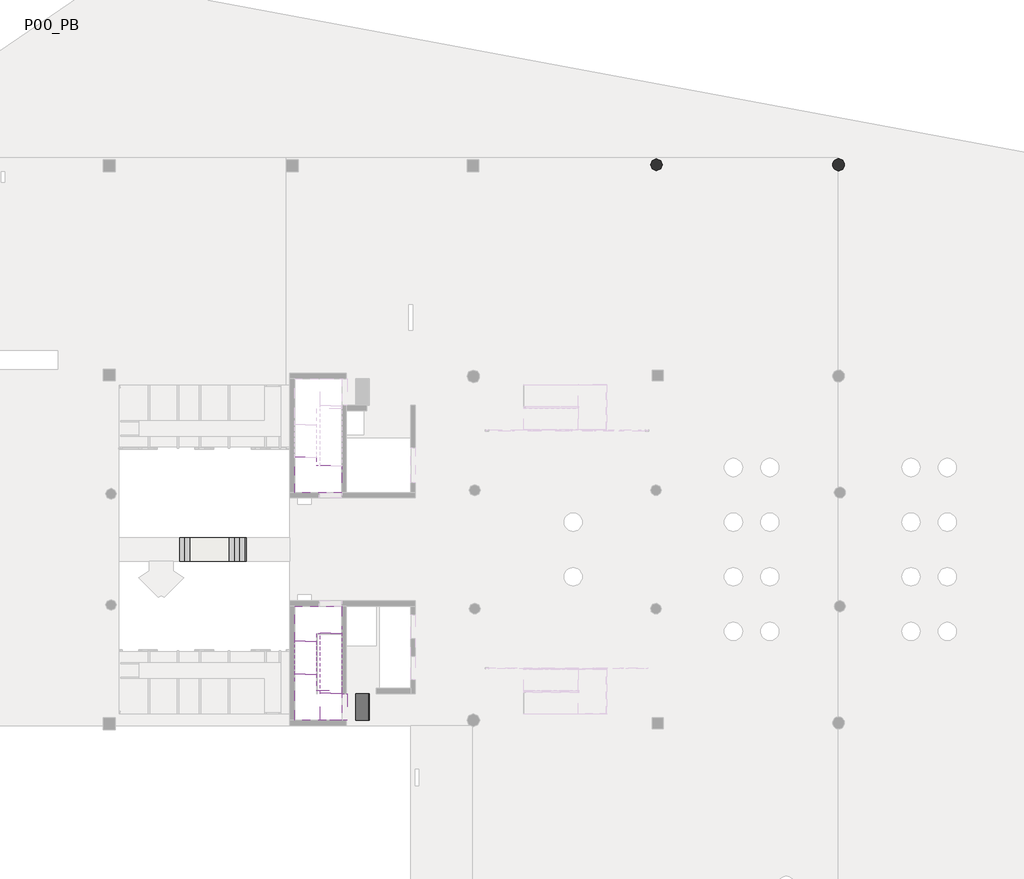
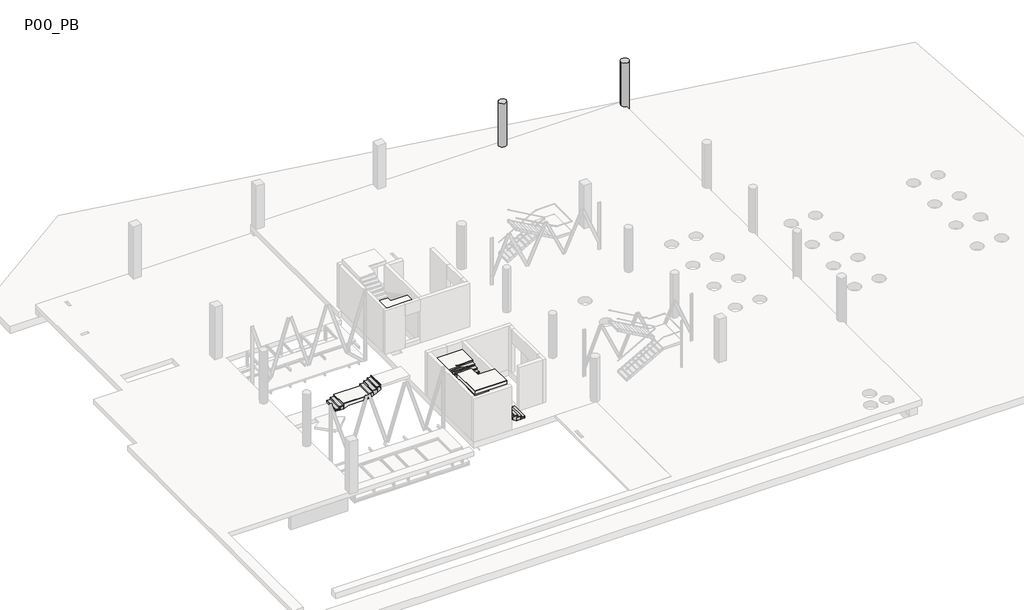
# One storey, part 6 of 7: 5 slabs, 5 stair flights, 2 columns.
"""IFC4 building model written with IfcOpenShell, lengths in millimetres."""

import ifcopenshell
import ifcopenshell.guid

model = None  # the IFC model being written
_history = None  # IfcOwnerHistory: only IFC2X3 demands one
_inside = {}  # id of a spatial element -> (the spatial element, [elements in it])
_under = {}  # id of a project, library or spatial element -> (it, [spatial elements below it])
_declared = {}  # id of a project -> (the project, [libraries it declares])
_typed = {}  # id of a type object -> (the type object, [elements of that type])
_made_of = {}  # id of a material, layer set ... -> (it, [elements and type objects made of it])


def new_model(schema):
    """Start an empty IFC model of exactly this schema.

    Asked for "IFC4X3", IfcOpenShell would pick the latest addendum, in which some entities
    have other attributes; the version numbers below select the first issue.
    IFC2X3 requires an IfcOwnerHistory on every rooted entity: one is made here for all.
    """
    global model, _history
    if schema == "IFC4X3":
        model = ifcopenshell.file(schema_version=(4, 3, 0, 0))
    else:
        model = ifcopenshell.file(schema=schema)
    _inside.clear()
    _under.clear()
    _declared.clear()
    _typed.clear()
    _made_of.clear()
    _history = None
    if model.schema == "IFC2X3":
        org = make("IfcOrganization", Name="unknown")
        user = make(
            "IfcPersonAndOrganization",
            ThePerson=make("IfcPerson", FamilyName="unknown"),
            TheOrganization=org,
        )
        app = make(
            "IfcApplication",
            ApplicationDeveloper=org,
            Version="unknown",
            ApplicationFullName="unknown",
            ApplicationIdentifier="unknown",
        )
        _history = make(
            "IfcOwnerHistory",
            OwningUser=user,
            OwningApplication=app,
            ChangeAction="ADDED",
            CreationDate=0,
        )
    return model


def make(cls, **values):
    """One entity of the class cls with the attributes given. An attribute that is None is left unset."""
    return model.create_entity(
        cls, **{name: value for name, value in values.items() if value is not None}
    )


def rooted(cls, **values):
    """An entity with a GlobalId (a new one), such as an element, a storey or a relation."""
    return make(cls, GlobalId=ifcopenshell.guid.new(), OwnerHistory=_history, **values)


def si_unit(unit_type, name, prefix=None):
    """IfcSIUnit, for example si_unit("LENGTHUNIT", "METRE", prefix="MILLI")."""
    return make("IfcSIUnit", UnitType=unit_type, Prefix=prefix, Name=name)


def assignment(units):
    """IfcUnitAssignment: the units of a project."""
    return None if units is None else make("IfcUnitAssignment", Units=units)


def point(xyz):
    """IfcCartesianPoint."""
    return None if xyz is None else make("IfcCartesianPoint", Coordinates=xyz)


def direction(xyz):
    """IfcDirection."""
    return None if xyz is None else make("IfcDirection", DirectionRatios=xyz)


def frame(location, z_axis=None, x_axis=None):
    """IfcAxis2Placement3D, a coordinate frame: its origin and axes. An axis left out is left unset."""
    return make(
        "IfcAxis2Placement3D",
        Location=point(location),
        Axis=direction(z_axis),
        RefDirection=direction(x_axis),
    )


def frame_2d(location, x_axis=None):
    """IfcAxis2Placement2D, a coordinate frame in the plane: its origin and x axis."""
    return make(
        "IfcAxis2Placement2D", Location=point(location), RefDirection=direction(x_axis)
    )


def origin():
    """The frame at (0, 0, 0) with its axes left unset."""
    return frame((0.0, 0.0, 0.0))


def place(relative_to, where):
    """IfcLocalPlacement: puts the frame where relative to a parent placement (None: the world)."""
    return make(
        "IfcLocalPlacement", PlacementRelTo=relative_to, RelativePlacement=where
    )


def context(
    kind, dimensions, precision=None, world=None, true_north=None, identifier=None
):
    """IfcGeometricRepresentationContext, for example the 3D "Model" context."""
    return make(
        "IfcGeometricRepresentationContext",
        ContextIdentifier=identifier,
        ContextType=kind,
        CoordinateSpaceDimension=dimensions,
        Precision=precision,
        WorldCoordinateSystem=world,
        TrueNorth=true_north,
    )


def project(units=None, contexts=None):
    """IfcProject with its units and contexts."""
    return rooted(
        "IfcProject",
        Name="project",
        RepresentationContexts=contexts,
        UnitsInContext=assignment(units),
    )


def spatial(cls, under=None, at=None, **own):
    """A site, building, storey or space (cls), placed at a placement, below another one or the project."""
    s = rooted(cls, ObjectPlacement=at, **own)
    if under is not None:
        _under.setdefault(under.id(), (under, []))[1].append(s)
    return s


def polyline(points):
    """IfcPolyline through the points."""
    return make("IfcPolyline", Points=[point(p) for p in points])


def circle_curve(where, radius):
    """IfcCircle in the frame where."""
    return make("IfcCircle", Position=where, Radius=radius)


def trimmed(basis, trim1, trim2, sense, master):
    """IfcTrimmedCurve: the piece of a basis curve between two trims."""
    return make(
        "IfcTrimmedCurve",
        BasisCurve=basis,
        Trim1=trim1,
        Trim2=trim2,
        SenseAgreement=sense,
        MasterRepresentation=master,
    )


def segment(curve, same_sense, transition):
    """IfcCompositeCurveSegment."""
    return make(
        "IfcCompositeCurveSegment",
        Transition=transition,
        SameSense=same_sense,
        ParentCurve=curve,
    )


def composite_curve(segments, self_intersect=None):
    """IfcCompositeCurve: segments joined end to end."""
    return make("IfcCompositeCurve", Segments=segments, SelfIntersect=self_intersect)


def outline(outer, holes=None, kind="AREA"):
    """IfcArbitraryClosedProfileDef: a profile drawn as a closed curve; with holes, ...WithVoids."""
    if holes is None:
        return make("IfcArbitraryClosedProfileDef", ProfileType=kind, OuterCurve=outer)
    return make(
        "IfcArbitraryProfileDefWithVoids",
        ProfileType=kind,
        OuterCurve=outer,
        InnerCurves=holes,
    )


def extrude(swept, where, along, depth):
    """IfcExtrudedAreaSolid: the profile swept, set in the frame where, extruded along a direction by depth."""
    return make(
        "IfcExtrudedAreaSolid",
        SweptArea=swept,
        Position=where,
        ExtrudedDirection=direction(along),
        Depth=depth,
    )


def faces_of(points, faces, orient=None, outer=None):
    """IfcFace entities. A face is a list of loops; a loop is a list of indices into points, from 0.

    orient and outer hold one flag for each loop. By default every Orientation is true, the
    first loop of a face is its IfcFaceOuterBound and the others are IfcFaceBound.
    """
    made = []
    for i, loops in enumerate(faces):
        bounds = []
        for j, loop in enumerate(loops):
            is_outer = j == 0 if outer is None else outer[i][j]
            bounds.append(
                make(
                    "IfcFaceOuterBound" if is_outer else "IfcFaceBound",
                    Bound=make("IfcPolyLoop", Polygon=[points[k] for k in loop]),
                    Orientation=True if orient is None else orient[i][j],
                )
            )
        made.append(make("IfcFace", Bounds=bounds))
    return made


def faceted_brep(points, faces, orient=None, outer=None, voids=None):
    """IfcFacetedBrep: a solid bounded by flat faces; with voids (closed shells), ...WithVoids."""
    shared = [point(p) for p in points]
    hull = make("IfcClosedShell", CfsFaces=faces_of(shared, faces, orient, outer))
    if voids is None:
        return make("IfcFacetedBrep", Outer=hull)
    return make(
        "IfcFacetedBrepWithVoids",
        Outer=hull,
        Voids=[
            make(cls, CfsFaces=faces_of(shared, fs, o, b)) for cls, fs, o, b in voids
        ],
    )


def shape(context_of_items, identifier, shape_type, items):
    """IfcShapeRepresentation: the items that make up one representation, for example the "Body"."""
    return make(
        "IfcShapeRepresentation",
        ContextOfItems=context_of_items,
        RepresentationIdentifier=identifier,
        RepresentationType=shape_type,
        Items=items,
    )


def made_of(thing, what):
    """Note that an element or type object is made of a material, layer set ...; save() writes the relation."""
    if what is not None:
        _made_of.setdefault(what.id(), (what, []))[1].append(thing)
    return thing


def element(
    cls,
    number,
    at=None,
    inside=None,
    cuts=None,
    type_object=None,
    material=None,
    context=None,
    identifier="Body",
    shape_type=None,
    held_by="IfcProductDefinitionShape",
    body=None,
    shapes=None,
    **own,
):
    """One element of the class cls, such as IfcWall. Its Tag is "e" and its number.

    at: its placement. inside: the storey or other place that contains it. cuts: it is an
    opening in that element (IfcRelVoidsElement). A single representation is given by context,
    identifier, shape_type and body (its items); several are given by shapes. held_by: the class
    of the entity that holds the representations. save() writes the other relations.
    """
    e = rooted(cls, Tag="e%d" % number, ObjectPlacement=at, **own)
    if body is not None:
        shapes = [shape(context, identifier, shape_type, body)]
    if shapes is not None:
        e.Representation = make(held_by, Representations=shapes)
    if inside is not None:
        _inside.setdefault(inside.id(), (inside, []))[1].append(e)
    if cuts is not None:
        rooted(
            "IfcRelVoidsElement", RelatingBuildingElement=cuts, RelatedOpeningElement=e
        )
    if type_object is not None:
        _typed.setdefault(type_object.id(), (type_object, []))[1].append(e)
    return made_of(e, material)


def aggregate(whole, parts):
    """IfcRelAggregates: a whole, such as a stair, and the parts it consists of."""
    return rooted("IfcRelAggregates", RelatingObject=whole, RelatedObjects=parts)


def save(model, path):
    """Write the relations noted so far, then the file.

    IfcRelAggregates (storeys below a building ...), IfcRelContainedInSpatialStructure (elements
    in a storey), IfcRelDefinesByType, IfcRelAssociatesMaterial and IfcRelDeclares: one each for
    every whole, place, type object, material and project.
    """
    for whole, parts in _under.values():
        aggregate(whole, parts)
    for where, things in _inside.values():
        rooted(
            "IfcRelContainedInSpatialStructure",
            RelatedElements=things,
            RelatingStructure=where,
        )
    for kind, things in _typed.values():
        rooted("IfcRelDefinesByType", RelatedObjects=things, RelatingType=kind)
    for what, things in _made_of.values():
        rooted("IfcRelAssociatesMaterial", RelatedObjects=things, RelatingMaterial=what)
    for by, libraries in _declared.values():
        rooted("IfcRelDeclares", RelatingContext=by, RelatedDefinitions=libraries)
    model.write(path)


def plane_surface(at):
    """IfcPlane: the flat surface through the origin of the frame at, square to its z axis."""
    return make("IfcPlane", Position=at)


def cylinder_surface(at, radius):
    """IfcCylindricalSurface: all points at the distance radius from the z axis of the frame at."""
    return make("IfcCylindricalSurface", Position=at, Radius=radius)


def advanced_brep(points, edges, surfaces, faces):
    """IfcAdvancedBrep: a solid bounded by faces that lie on surfaces and meet in shared edges.

    An edge is (start, end): straight between two places in points (the first is 0);
    or (start, end, curve); or (start, end, curve, False) where it runs against its curve.
    A face is (place in surfaces, loops), or (place, loops, False) where it looks against
    its surface's normal. A loop lists edges by number (the first is 1), with a minus sign
    where the edge is run from its end to its start. The first loop is the outer one.
    """
    corners = [point(p) for p in points]
    vertices = [make("IfcVertexPoint", VertexGeometry=c) for c in corners]
    made = []
    for start, end, *more in edges:
        made.append(
            make(
                "IfcEdgeCurve",
                EdgeStart=vertices[start],
                EdgeEnd=vertices[end],
                EdgeGeometry=more[0] if more else make("IfcPolyline", Points=[corners[start], corners[end]]),
                SameSense=more[1] if len(more) > 1 else True,
            )
        )
    hull = []
    for where, loops, *sense in faces:
        bounds = []
        for j, loop in enumerate(loops):
            ring = [make("IfcOrientedEdge", EdgeElement=made[abs(k) - 1], Orientation=k > 0) for k in loop]
            bounds.append(
                make(
                    "IfcFaceOuterBound" if j == 0 else "IfcFaceBound",
                    Bound=make("IfcEdgeLoop", EdgeList=ring),
                    Orientation=True,
                )
            )
        hull.append(make("IfcAdvancedFace", Bounds=bounds, FaceSurface=surfaces[where], SameSense=sense[0] if sense else True))
    return make("IfcAdvancedBrep", Outer=make("IfcClosedShell", CfsFaces=hull))


model = new_model("IFC4")

# Units and contexts
model_context = context("Model", 3, world=origin())
ifc_project = project(units=[si_unit("LENGTHUNIT", "METRE", prefix="MILLI")], contexts=[model_context])

# Site, building, storey
site = spatial("IfcSite", under=ifc_project)
building = spatial("IfcBuilding", under=site)
storey = spatial("IfcBuildingStorey", under=building, Name="P00_PB", Elevation=6330.0)

# Columns
placement = place(None, origin())
element("IfcColumn", 1, ObjectType="Hormigón-Redondo-Pilar : Pilo_Rodo-Formigo-650", at=placement, inside=storey, context=model_context, shape_type="SweptSolid", body=[
    extrude(outline(composite_curve([segment(trimmed(circle_curve(frame_2d((6484.6816847, 25614.4137814)), 325.0), [point((6809.6816847, 25614.4137814))], [point((6159.6816847, 25614.4137814))], False, "CARTESIAN"), True, "CONTINUOUS"), segment(trimmed(circle_curve(frame_2d((6484.6816847, 25614.4137814)), 325.0), [point((6159.6816847, 25614.4137814))], [point((6809.6816847, 25614.4137814))], False, "CARTESIAN"), True, "CONTINUOUS")], self_intersect=False)), frame((0.0, 0.0, 7100.0), z_axis=(0.0, 0.0, 1.0), x_axis=(1.0, 0.0, 0.0)), (0.0, 0.0, 1.0), 3760.0),
])
element("IfcColumn", 2, ObjectType="Hormigón-Redondo-Pilar : Pilo_Rodo-Formigo-650", at=placement, inside=storey, context=model_context, shape_type="AdvancedBrep", body=[
    advanced_brep(
    [(16434.2178625, 25293.2133373, 5480.0), (16434.2143846, 25589.9950291, 5480.0), (16434.2103345, 25935.6130606, 5480.0), (16808.7686026, 25614.4137796, 5480.0), (16808.7686026, 25614.4137796, 10860.0), (16158.7686026, 25614.4137796, 10860.0), (16158.7686026, 25614.4137796, 6600.0), (16434.2178625, 25293.2133373, 6600.0), (16434.2103345, 25935.6130606, 6600.0), (16434.2143846, 25589.9950291, 6600.0)],
    [
        (0, 1),
        (1, 2),
        (2, 3, circle_curve(frame((16483.7686026, 25614.4137796, 5480.0), z_axis=(0.0, 0.0, -1.0), x_axis=(-1.0, 0.0, 0.0)), 325.0)),
        (3, 0, circle_curve(frame((16483.7686026, 25614.4137796, 5480.0), z_axis=(0.0, 0.0, -1.0), x_axis=(-1.0, 0.0, 0.0)), 325.0)),
        (4, 5, circle_curve(frame((16483.7686026, 25614.4137796, 10860.0), z_axis=(0.0, 0.0, -1.0), x_axis=(-1.0, 0.0, 0.0)), 325.0)),
        (5, 6),
        (6, 7, circle_curve(frame((16483.7686026, 25614.4137796, 6600.0), z_axis=(0.0, 0.0, 1.0), x_axis=(-1.0, 0.0, 0.0)), 325.0)),
        (7, 0),
        (3, 4),
        (2, 8),
        (8, 6, circle_curve(frame((16483.7686026, 25614.4137796, 6600.0), z_axis=(0.0, 0.0, 1.0), x_axis=(-1.0, 0.0, 0.0)), 325.0)),
        (5, 4, circle_curve(frame((16483.7686026, 25614.4137796, 10860.0), z_axis=(0.0, 0.0, -1.0), x_axis=(-1.0, 0.0, 0.0)), 325.0)),
        (8, 9),
        (9, 7),
    ],
    [
        plane_surface(frame((16158.7686026, 25614.4137796, 5480.0), z_axis=(0.0, 0.0, -1.0), x_axis=(0.0, 1.0, 0.0))),
        cylinder_surface(frame((16483.7686026, 25614.4137796, 5480.0), z_axis=(0.0, 0.0, 1.0), x_axis=(-1.0, 0.0, 0.0)), 325.0),
        plane_surface(frame((16158.7686026, 25614.4137796, 10860.0), z_axis=(0.0, 0.0, 1.0), x_axis=(0.0, -1.0, 0.0))),
        plane_surface(frame((-13840.4585477, 25989.9950291, 6600.0), z_axis=(0.0, 0.0, -1.0), x_axis=(0.0, -1.0, 0.0))),
        plane_surface(frame((16434.5509715, -3132.6075252, 5480.0), z_axis=(-0.999999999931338, -1.1718535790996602e-05, 0.0), x_axis=(-1.1718535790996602e-05, 0.999999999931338, 0.0))),
    ],
    [
        (0, [[1, 2, 3, 4]]),
        (1, [[5, 6, 7, 8, -4, 9]]),
        (1, [[-9, -3, 10, 11, -6, 12]]),
        (2, [[-5, -12]]),
        (3, [[-11, 13, 14, -7]]),
        (4, [[-14, -13, -10, -2, -1, -8]]),
    ],
),
])

# Slabs
element("IfcSlab", 3, ObjectType="250mm_Thickness", at=placement, inside=storey, context=model_context, shape_type="SolidModel", body=[
    faceted_brep([(-10790.2146087, 9064.8934136, 10116.25), (-11990.2146087, 9064.8934136, 10116.25), (-11990.2146087, 9114.8934136, 10116.25), (-12190.3216429, 9114.8934136, 10116.25), (-12190.3216429, 9514.8960673, 10116.25), (-12190.3216429, 9564.8960673, 10116.25), (-13390.3216429, 9564.8960673, 10116.25), (-13390.3216429, 9514.8960673, 10116.25), (-13390.3216429, 7614.8960687, 10116.25), (-10790.2146087, 7614.8960687, 10116.25), (-10790.2146087, 8703.6910485, 10116.25), (-10790.2146087, 9064.8934136, 9960.0), (-10790.2146087, 9064.8934136, 9678.1237682), (-11990.2146087, 9064.8934136, 9678.1237682), (-11990.2146087, 9064.8934136, 9866.25), (-11990.2146087, 9064.8934136, 9960.0), (-11990.2146087, 9114.8934136, 9866.25), (-12190.3216429, 9114.8934136, 9866.25), (-12190.3216429, 9514.8960673, 9866.25), (-12190.3216429, 9564.8960673, 9866.25), (-13390.3216429, 9564.8960673, 9866.25), (-13390.3216429, 9514.8960673, 9866.25), (-13390.3216429, 7614.8960687, 9866.25), (-10790.2146087, 7614.8960687, 9866.25), (-10790.2146087, 8703.6910485, 9866.25), (-11990.2146087, 8703.6910485, 9866.25)], [[[0, 1, 2, 3, 4, 5, 6, 7, 8, 9, 10]], [[1, 0, 11, 12, 13, 14, 15]], [[2, 1, 15, 14, 16]], [[3, 2, 16, 17]], [[4, 3, 17, 18]], [[5, 4, 18, 19]], [[6, 5, 19, 20]], [[7, 6, 20, 21]], [[8, 7, 21, 22]], [[9, 8, 22, 23]], [[12, 11, 0, 10, 9, 23, 24]], [[25, 24, 23, 22, 21, 20, 19, 18, 17, 16, 14]], [[24, 25, 13, 12]], [[25, 14, 13]]]),
    extrude(outline(polyline([(-10790.2146087, 9114.8934136), (-10790.2146087, 7614.8960687), (-13390.3216429, 7614.8960687), (-13390.3216429, 9514.8960673), (-12190.3216429, 9514.8960673), (-12190.3216429, 9114.8934136), (-11990.2146087, 9114.8934136), (-10790.2146087, 9114.8934136)])), frame((0.0, 0.0, 10116.25), z_axis=(0.0, 0.0, 1.0), x_axis=(1.0, 0.0, 0.0)), (0.0, 0.0, 1.0), 50.0),
])
element("IfcSlab", 4, ObjectType="250mm_Thickness", at=placement, inside=storey, context=model_context, shape_type="SolidModel", body=[
    faceted_brep([(-10540.7914923, -4885.1039323, 8241.25), (-10540.7914923, -3435.1012772, 8241.25), (-10790.2146087, -3435.1012772, 8241.25), (-10790.2146087, -3385.1012772, 8241.25), (-11990.2146087, -3385.1012772, 8241.25), (-11990.2146087, -3435.1012772, 8241.25), (-11990.2146087, -4885.1039323, 8241.25), (-10901.9938574, -4885.1039323, 8241.25), (-10540.7914923, -4885.1039323, 8085.0), (-10540.7914923, -4885.1039323, 7803.1237682), (-10540.7914923, -3435.1012772, 7803.1237682), (-10540.7914923, -3435.1012772, 8085.0), (-11990.2146087, -4885.1039323, 7991.25), (-10901.9938574, -4885.1039323, 7991.25), (-11990.2146087, -3435.1012772, 7991.25), (-10790.2146087, -3385.1012772, 7991.25), (-11990.2146087, -3385.1012772, 7991.25), (-10901.9938574, -3435.1012772, 7991.25), (-10790.2146087, -3435.1012772, 7991.25)], [[[0, 1, 2, 3, 4, 5, 6, 7]], [[1, 0, 8, 9, 10, 11]], [[9, 8, 0, 7, 6, 12, 13]], [[6, 5, 14, 12]], [[4, 3, 15, 16]], [[2, 1, 11, 10, 17, 18]], [[17, 13, 12, 14, 16, 15, 18]], [[13, 17, 10, 9]], [[3, 2, 18, 15]], [[5, 4, 16, 14]]]),
    extrude(outline(polyline([(-10490.7914923, -4885.1039323), (-11990.2146087, -4885.1039323), (-11990.2146087, -3435.1012772), (-10790.2146087, -3435.1012772), (-10490.7914923, -3435.1012772), (-10490.7914923, -4885.1039323)])), frame((0.0, 0.0, 8241.25), z_axis=(0.0, 0.0, 1.0), x_axis=(1.0, 0.0, 0.0)), (0.0, 0.0, 1.0), 50.0),
])
element("IfcSlab", 5, ObjectType="250mm_Thickness", at=placement, inside=storey, context=model_context, shape_type="SolidModel", body=[
    faceted_brep([(-11990.2146087, -135.1012772, 10116.25), (-11990.2146087, -85.1012772, 10116.25), (-10790.2146087, -85.1012772, 10116.25), (-10790.2146087, 276.101088, 10116.25), (-10790.2146087, 1364.8960678, 10116.25), (-13390.3216429, 1364.8960678, 10116.25), (-13390.3216429, -535.1039308, 10116.25), (-13390.3216429, -585.1039308, 10116.25), (-12190.3216429, -585.1039308, 10116.25), (-12190.3216429, -535.1039308, 10116.25), (-12190.3216429, -135.1012772, 10116.25), (-11990.2146087, -85.1012772, 9960.0), (-11990.2146087, -85.1012772, 9866.25), (-11990.2146087, -85.1012772, 9678.1237682), (-10790.2146087, -85.1012772, 9678.1237682), (-10790.2146087, -85.1012772, 9960.0), (-12190.3216429, -135.1012772, 9866.25), (-11990.2146087, -135.1012772, 9866.25), (-12190.3216429, -535.1039308, 9866.25), (-13390.3216429, -585.1039308, 9866.25), (-12190.3216429, -585.1039308, 9866.25), (-13390.3216429, 1364.8960678, 9866.25), (-13390.3216429, -535.1039308, 9866.25), (-10790.2146087, 1364.8960678, 9866.25), (-10790.2146087, 276.101088, 9866.25), (-11990.2146087, 276.101088, 9866.25)], [[[0, 1, 2, 3, 4, 5, 6, 7, 8, 9, 10]], [[2, 1, 11, 12, 13, 14, 15]], [[0, 10, 16, 17]], [[10, 9, 18, 16]], [[8, 7, 19, 20]], [[6, 5, 21, 22]], [[5, 4, 23, 21]], [[2, 15, 14, 24, 23, 4, 3]], [[24, 25, 12, 17, 16, 18, 20, 19, 22, 21, 23]], [[25, 24, 14, 13]], [[12, 25, 13]], [[1, 0, 17, 12, 11]], [[7, 6, 22, 19]], [[9, 8, 20, 18]]]),
    extrude(outline(polyline([(-11990.2146087, -135.1012772), (-12190.3216429, -135.1012772), (-12190.3216429, -535.1039308), (-13390.3216429, -535.1039308), (-13390.3216429, 1364.8960678), (-10790.2146087, 1364.8960678), (-10790.2146087, -135.1012772), (-11990.2146087, -135.1012772)])), frame((0.0, 0.0, 10116.25), z_axis=(0.0, 0.0, 1.0), x_axis=(1.0, 0.0, 0.0)), (0.0, 0.0, 1.0), 50.0),
])
element("IfcSlab", 6, ObjectType="250mm_Thickness", at=placement, inside=storey, context=model_context, shape_type="SolidModel", body=[
    faceted_brep([(-12190.3216429, -2385.1039308, 11210.0), (-13390.3216429, -2385.1039308, 11210.0), (-13390.3216429, -2746.3062959, 11210.0), (-13390.3216429, -4885.1039323, 11210.0), (-10790.2146087, -4885.1039323, 11210.0), (-10790.2146087, -3235.1011462, 11210.0), (-12190.3216429, -3235.1011462, 11210.0), (-12190.3216429, -2746.3062959, 11210.0), (-12190.3216429, -2385.1039308, 10771.8737682), (-12190.3216429, -2385.1039308, 11053.75), (-12190.3216429, -3235.1011462, 10960.0), (-12190.3216429, -2746.3062959, 10960.0), (-10790.2146087, -3235.1011462, 10960.0), (-10790.2146087, -4885.1039323, 10960.0), (-13390.3216429, -4885.1039323, 10960.0), (-13390.3216429, -2385.1039308, 11053.75), (-13390.3216429, -2385.1039308, 10771.8737682), (-13390.3216429, -2746.3062959, 10960.0)], [[[0, 1, 2, 3, 4, 5, 6, 7]], [[8, 9, 0, 7, 6, 10, 11]], [[6, 5, 12, 10]], [[5, 4, 13, 12]], [[4, 3, 14, 13]], [[1, 15, 16, 17, 14, 3, 2]], [[17, 11, 10, 12, 13, 14]], [[1, 0, 9, 8, 16, 15]], [[11, 17, 16, 8]]]),
    extrude(outline(polyline([(-12190.3216429, -2335.1039308), (-12190.3216429, -3235.1011462), (-10790.2146087, -3235.1011462), (-10790.2146087, -4885.1039323), (-13390.3216429, -4885.1039323), (-13390.3216429, -2335.1039308), (-12190.3216429, -2335.1039308)])), frame((0.0, 0.0, 11210.0), z_axis=(0.0, 0.0, 1.0), x_axis=(1.0, 0.0, 0.0)), (0.0, 0.0, 1.0), 50.0),
])
element("IfcSlab", 7, ObjectType="250mm_Thickness", at=placement, inside=storey, context=model_context, shape_type="SolidModel", body=[
    faceted_brep([(-16983.8735458, 3839.896069, 6842.8571429), (-16933.8735458, 3839.896069, 6842.8571429), (-16933.8735458, 5139.896069, 6842.8571429), (-16983.8735458, 5139.896069, 6842.8571429), (-18693.3549721, 5139.896069, 6842.8571429), (-19053.8735458, 5139.896069, 6842.8571429), (-19053.8735458, 3839.896069, 6842.8571429), (-18693.3549721, 3839.896069, 6842.8571429), (-19053.8735458, 5139.896069, 6430.0), (-19053.8735458, 5139.896069, 6688.5714286), (-16983.8735458, 5139.896069, 6592.8571429), (-18693.3549721, 5139.896069, 6592.8571429), (-19010.0216388, 5139.896069, 6430.0), (-19053.8735458, 3839.896069, 6688.5714286), (-19053.8735458, 3839.896069, 6430.0), (-19010.0216388, 3839.896069, 6430.0), (-18693.3549721, 3839.896069, 6592.8571429), (-16983.8735458, 3839.896069, 6592.8571429), (-16933.8735458, 5139.896069, 6592.8571429), (-16933.8735458, 3839.896069, 6592.8571429)], [[[0, 1, 2, 3, 4, 5, 6, 7]], [[8, 9, 5, 4, 3, 10, 11, 12]], [[6, 13, 14, 15, 16, 17, 0, 7]], [[14, 8, 12, 15]], [[16, 11, 10, 18, 19, 17]], [[6, 5, 9, 8, 14, 13]], [[11, 16, 15, 12]], [[1, 0, 17, 19]], [[2, 1, 19, 18]], [[3, 2, 18, 10]]]),
    extrude(outline(polyline([(-16983.8735458, 3839.896069), (-19103.8735458, 3839.896069), (-19103.8735458, 5139.896069), (-16983.8735458, 5139.896069), (-16983.8735458, 3839.896069)])), frame((0.0, 0.0, 6842.8571429), z_axis=(0.0, 0.0, 1.0), x_axis=(1.0, 0.0, 0.0)), (0.0, 0.0, 1.0), 50.0),
])

# Stair flights
element("IfcStairFlight", 8, ObjectType="250mm Depth_Terrazo Marro", at=placement, inside=storey, context=model_context, shape_type="SolidModel", body=[
    faceted_brep([(-19353.8735458, 5139.896069, 6534.2857143), (-19653.8735458, 5139.896069, 6534.2857143), (-19653.8735458, 3839.896069, 6534.2857143), (-19353.8735458, 3839.896069, 6534.2857143), (-19353.8735458, 5139.896069, 6430.0), (-19653.8735458, 5139.896069, 6430.0), (-19653.8735458, 3839.896069, 6430.0), (-19353.8735458, 3839.896069, 6430.0), (-19353.8735458, 5139.896069, 6688.5714286), (-19353.8735458, 3839.896069, 6688.5714286), (-19103.8735458, 3839.896069, 6688.5714286), (-19053.8735458, 3839.896069, 6688.5714286), (-19053.8735458, 5139.896069, 6688.5714286), (-19103.8735458, 5139.896069, 6688.5714286), (-19053.8735458, 5139.896069, 6430.0), (-19103.8735458, 5139.896069, 6430.0), (-19103.8735458, 3839.896069, 6430.0), (-19053.8735458, 3839.896069, 6430.0)], [[[0, 1, 2, 3]], [[1, 0, 4, 5]], [[2, 1, 5, 6]], [[3, 2, 6, 7]], [[8, 9, 10, 11, 12, 13]], [[4, 0, 8, 13, 12, 14, 15]], [[0, 3, 9, 8]], [[3, 7, 16, 17, 11, 10, 9]], [[12, 11, 17, 14]], [[5, 4, 15, 14, 17, 16, 7, 6]]]),
    extrude(outline(polyline([(-19653.8735458, 3839.896069), (-19703.8735458, 3839.896069), (-19703.8735458, 5139.896069), (-19653.8735458, 5139.896069), (-19653.8735458, 3839.896069)])), frame((0.0, 0.0, 6430.0), z_axis=(0.0, 0.0, 1.0), x_axis=(1.0, 0.0, 0.0)), (0.0, 0.0, 1.0), 104.2857143),
    extrude(outline(polyline([(-19403.8735458, 5139.896069), (-19403.8735458, 3839.896069), (-19703.8735458, 3839.896069), (-19703.8735458, 5139.896069), (-19403.8735458, 5139.896069)])), frame((0.0, 0.0, 6534.2857143), z_axis=(0.0, 0.0, 1.0), x_axis=(1.0, 0.0, 0.0)), (0.0, 0.0, 1.0), 50.0),
    extrude(outline(polyline([(-19353.8735458, 3839.896069), (-19403.8735458, 3839.896069), (-19403.8735458, 5139.896069), (-19353.8735458, 5139.896069), (-19353.8735458, 3839.896069)])), frame((0.0, 0.0, 6534.2857143), z_axis=(0.0, 0.0, 1.0), x_axis=(1.0, 0.0, 0.0)), (0.0, 0.0, 1.0), 154.2857143),
    extrude(outline(polyline([(-19053.8735458, 3839.896069), (-19103.8735458, 3839.896069), (-19103.8735458, 5139.896069), (-19053.8735458, 5139.896069), (-19053.8735458, 3839.896069)])), frame((0.0, 0.0, 6688.5714286), z_axis=(0.0, 0.0, 1.0), x_axis=(1.0, 0.0, 0.0)), (0.0, 0.0, 1.0), 154.2857143),
    extrude(outline(polyline([(-19103.8735458, 5139.896069), (-19103.8735458, 3839.896069), (-19403.8735458, 3839.896069), (-19403.8735458, 5139.896069), (-19103.8735458, 5139.896069)])), frame((0.0, 0.0, 6688.5714286), z_axis=(0.0, 0.0, 1.0), x_axis=(1.0, 0.0, 0.0)), (0.0, 0.0, 1.0), 50.0),
])
element("IfcStairFlight", 9, ObjectType="250mm Depth_Terrazo Marro", at=placement, inside=storey, context=model_context, shape_type="SolidModel", body=[
    faceted_brep([(-16933.8735458, 5139.896069, 6997.1428571), (-16933.8735458, 3839.896069, 6997.1428571), (-16873.3549721, 3839.896069, 6997.1428571), (-16633.8735458, 3839.896069, 6997.1428571), (-16633.8735458, 5139.896069, 6997.1428571), (-16873.3549721, 5139.896069, 6997.1428571), (-16633.8735458, 5139.896069, 6716.0190192), (-16873.3549721, 5139.896069, 6592.8571429), (-16933.8735458, 5139.896069, 6592.8571429), (-16933.8735458, 5139.896069, 6842.8571429), (-16933.8735458, 3839.896069, 6592.8571429), (-16933.8735458, 3839.896069, 6842.8571429), (-16873.3549721, 3839.896069, 6592.8571429), (-16633.8735458, 3839.896069, 6716.0190192), (-16333.8735458, 5139.896069, 7151.4285714), (-16633.8735458, 5139.896069, 7151.4285714), (-16633.8735458, 3839.896069, 7151.4285714), (-16333.8735458, 3839.896069, 7151.4285714), (-16333.8735458, 5139.896069, 6870.3047335), (-16333.8735458, 3839.896069, 6870.3047335), (-16033.8735458, 5139.896069, 7305.7142857), (-16333.8735458, 5139.896069, 7305.7142857), (-16333.8735458, 3839.896069, 7305.7142857), (-16033.8735458, 3839.896069, 7305.7142857), (-16033.8735458, 5139.896069, 7024.5904478), (-16033.8735458, 3839.896069, 7024.5904478)], [[[0, 1, 2, 3, 4, 5]], [[4, 6, 7, 8, 9, 0, 5]], [[1, 0, 9, 8, 10, 11]], [[1, 11, 10, 12, 13, 3, 2]], [[14, 15, 16, 17]], [[15, 14, 18, 6, 4]], [[4, 3, 16, 15]], [[17, 16, 3, 13, 19]], [[20, 21, 22, 23]], [[21, 20, 24, 18, 14]], [[14, 17, 22, 21]], [[23, 22, 17, 19, 25]], [[20, 23, 25, 24]], [[12, 7, 6, 18, 24, 25, 19, 13]], [[7, 12, 10, 8]]]),
    extrude(outline(polyline([(-16933.8735458, 3839.896069), (-16983.8735458, 3839.896069), (-16983.8735458, 5139.896069), (-16933.8735458, 5139.896069), (-16933.8735458, 3839.896069)])), frame((0.0, 0.0, 6842.8571429), z_axis=(0.0, 0.0, 1.0), x_axis=(1.0, 0.0, 0.0)), (0.0, 0.0, 1.0), 154.2857143),
    extrude(outline(polyline([(-16683.8735458, 5139.896069), (-16683.8735458, 3839.896069), (-16983.8735458, 3839.896069), (-16983.8735458, 5139.896069), (-16683.8735458, 5139.896069)])), frame((0.0, 0.0, 6997.1428571), z_axis=(0.0, 0.0, 1.0), x_axis=(1.0, 0.0, 0.0)), (0.0, 0.0, 1.0), 50.0),
    extrude(outline(polyline([(-16633.8735458, 3839.896069), (-16683.8735458, 3839.896069), (-16683.8735458, 5139.896069), (-16633.8735458, 5139.896069), (-16633.8735458, 3839.896069)])), frame((0.0, 0.0, 6997.1428571), z_axis=(0.0, 0.0, 1.0), x_axis=(1.0, 0.0, 0.0)), (0.0, 0.0, 1.0), 154.2857143),
    extrude(outline(polyline([(-16383.8735458, 5139.896069), (-16383.8735458, 3839.896069), (-16683.8735458, 3839.896069), (-16683.8735458, 5139.896069), (-16383.8735458, 5139.896069)])), frame((0.0, 0.0, 7151.4285714), z_axis=(0.0, 0.0, 1.0), x_axis=(1.0, 0.0, 0.0)), (0.0, 0.0, 1.0), 50.0),
    extrude(outline(polyline([(-16333.8735458, 3839.896069), (-16383.8735458, 3839.896069), (-16383.8735458, 5139.896069), (-16333.8735458, 5139.896069), (-16333.8735458, 3839.896069)])), frame((0.0, 0.0, 7151.4285714), z_axis=(0.0, 0.0, 1.0), x_axis=(1.0, 0.0, 0.0)), (0.0, 0.0, 1.0), 154.2857143),
    extrude(outline(polyline([(-16033.8735458, 3839.896069), (-16083.8735458, 3839.896069), (-16083.8735458, 5139.896069), (-16033.8735458, 5139.896069), (-16033.8735458, 3839.896069)])), frame((0.0, 0.0, 7305.7142857), z_axis=(0.0, 0.0, 1.0), x_axis=(1.0, 0.0, 0.0)), (0.0, 0.0, 1.0), 154.2857143),
    extrude(outline(polyline([(-16083.8735458, 5139.896069), (-16083.8735458, 3839.896069), (-16383.8735458, 3839.896069), (-16383.8735458, 5139.896069), (-16083.8735458, 5139.896069)])), frame((0.0, 0.0, 7305.7142857), z_axis=(0.0, 0.0, 1.0), x_axis=(1.0, 0.0, 0.0)), (0.0, 0.0, 1.0), 50.0),
])
element("IfcStairFlight", 10, ObjectType="250mm Depth", at=placement, inside=storey, context=model_context, shape_type="SolidModel", body=[
    faceted_brep([(-9640.7914923, -4885.1039323, 7616.25), (-9340.7914923, -4885.1039323, 7616.25), (-9340.7914923, -3435.1012772, 7616.25), (-9640.7914923, -3435.1012772, 7616.25), (-9340.7914923, -3435.1012772, 7510.0), (-9640.7914923, -3435.1012772, 7510.0), (-9340.7914923, -4885.1039323, 7510.0), (-9640.7914923, -4885.1039323, 7510.0), (-9940.7914923, -4885.1039323, 7772.5), (-9640.7914923, -4885.1039323, 7772.5), (-9640.7914923, -3435.1012772, 7772.5), (-9940.7914923, -3435.1012772, 7772.5), (-9940.7914923, -3435.1012772, 7510.0), (-9940.7914923, -4885.1039323, 7510.0), (-10240.7914923, -4885.1039323, 7928.75), (-9940.7914923, -4885.1039323, 7928.75), (-9940.7914923, -3435.1012772, 7928.75), (-10240.7914923, -3435.1012772, 7928.75), (-9977.9938574, -3435.1012772, 7510.0), (-10240.7914923, -3435.1012772, 7646.8737682), (-10240.7914923, -4885.1039323, 7646.8737682), (-9977.9938574, -4885.1039323, 7510.0), (-10540.7914923, -4885.1039323, 8085.0), (-10240.7914923, -4885.1039323, 8085.0), (-10240.7914923, -3435.1012772, 8085.0), (-10540.7914923, -3435.1012772, 8085.0), (-10540.7914923, -3435.1012772, 7803.1237682), (-10540.7914923, -4885.1039323, 7803.1237682)], [[[0, 1, 2, 3]], [[3, 2, 4, 5]], [[2, 1, 6, 4]], [[1, 0, 7, 6]], [[8, 9, 10, 11]], [[3, 5, 12, 11, 10]], [[0, 3, 10, 9]], [[7, 0, 9, 8, 13]], [[14, 15, 16, 17]], [[11, 12, 18, 19, 17, 16]], [[8, 11, 16, 15]], [[13, 8, 15, 14, 20, 21]], [[22, 23, 24, 25]], [[25, 24, 17, 19, 26]], [[14, 17, 24, 23]], [[23, 22, 27, 20, 14]], [[22, 25, 26, 27]], [[6, 7, 13, 21, 18, 12, 5, 4]], [[18, 21, 20, 27, 26, 19]]]),
    extrude(outline(polyline([(-9340.7914923, -3435.1012772), (-9290.7914923, -3435.1012772), (-9290.7914923, -4885.1039323), (-9340.7914923, -4885.1039323), (-9340.7914923, -3435.1012772)])), frame((0.0, 0.0, 7510.0), z_axis=(0.0, 0.0, 1.0), x_axis=(1.0, 0.0, 0.0)), (0.0, 0.0, 1.0), 106.25),
    extrude(outline(polyline([(-9590.7914923, -4885.1039323), (-9590.7914923, -3435.1012772), (-9290.7914923, -3435.1012772), (-9290.7914923, -4885.1039323), (-9590.7914923, -4885.1039323)])), frame((0.0, 0.0, 7616.25), z_axis=(0.0, 0.0, 1.0), x_axis=(1.0, 0.0, 0.0)), (0.0, 0.0, 1.0), 50.0),
    extrude(outline(polyline([(-9640.7914923, -3435.1012772), (-9590.7914923, -3435.1012772), (-9590.7914923, -4885.1039323), (-9640.7914923, -4885.1039323), (-9640.7914923, -3435.1012772)])), frame((0.0, 0.0, 7616.25), z_axis=(0.0, 0.0, 1.0), x_axis=(1.0, 0.0, 0.0)), (0.0, 0.0, 1.0), 156.25),
    extrude(outline(polyline([(-9890.7914923, -4885.1039323), (-9890.7914923, -3435.1012772), (-9590.7914923, -3435.1012772), (-9590.7914923, -4885.1039323), (-9890.7914923, -4885.1039323)])), frame((0.0, 0.0, 7772.5), z_axis=(0.0, 0.0, 1.0), x_axis=(1.0, 0.0, 0.0)), (0.0, 0.0, 1.0), 50.0),
    extrude(outline(polyline([(-9940.7914923, -3435.1012772), (-9890.7914923, -3435.1012772), (-9890.7914923, -4885.1039323), (-9940.7914923, -4885.1039323), (-9940.7914923, -3435.1012772)])), frame((0.0, 0.0, 7772.5), z_axis=(0.0, 0.0, 1.0), x_axis=(1.0, 0.0, 0.0)), (0.0, 0.0, 1.0), 156.25),
    extrude(outline(polyline([(-10190.7914923, -4885.1039323), (-10190.7914923, -3435.1012772), (-9890.7914923, -3435.1012772), (-9890.7914923, -4885.1039323), (-10190.7914923, -4885.1039323)])), frame((0.0, 0.0, 7928.75), z_axis=(0.0, 0.0, 1.0), x_axis=(1.0, 0.0, 0.0)), (0.0, 0.0, 1.0), 50.0),
    extrude(outline(polyline([(-10240.7914923, -3435.1012772), (-10190.7914923, -3435.1012772), (-10190.7914923, -4885.1039323), (-10240.7914923, -4885.1039323), (-10240.7914923, -3435.1012772)])), frame((0.0, 0.0, 7928.75), z_axis=(0.0, 0.0, 1.0), x_axis=(1.0, 0.0, 0.0)), (0.0, 0.0, 1.0), 156.25),
    extrude(outline(polyline([(-10540.7914923, -3435.1012772), (-10490.7914923, -3435.1012772), (-10490.7914923, -4885.1039323), (-10540.7914923, -4885.1039323), (-10540.7914923, -3435.1012772)])), frame((0.0, 0.0, 8085.0), z_axis=(0.0, 0.0, 1.0), x_axis=(1.0, 0.0, 0.0)), (0.0, 0.0, 1.0), 156.25),
    extrude(outline(polyline([(-10490.7914923, -4885.1039323), (-10490.7914923, -3435.1012772), (-10190.7914923, -3435.1012772), (-10190.7914923, -4885.1039323), (-10490.7914923, -4885.1039323)])), frame((0.0, 0.0, 8085.0), z_axis=(0.0, 0.0, 1.0), x_axis=(1.0, 0.0, 0.0)), (0.0, 0.0, 1.0), 50.0),
])
element("IfcStairFlight", 11, ObjectType="250mm Depth", at=placement, inside=storey, context=model_context, shape_type="SolidModel", body=[
    faceted_brep([(-11990.2146087, -3385.1012772, 8397.5), (-10790.2146087, -3385.1012772, 8397.5), (-10790.2146087, -3323.898912, 8397.5), (-10790.2146087, -3085.1012772, 8397.5), (-11990.2146087, -3085.1012772, 8397.5), (-11990.2146087, -3323.898912, 8397.5), (-10790.2146087, -3385.1012772, 8241.25), (-10790.2146087, -3385.1012772, 7991.25), (-10790.2146087, -3323.898912, 7991.25), (-10790.2146087, -3085.1012772, 8115.6237682), (-11990.2146087, -3385.1012772, 8241.25), (-11990.2146087, -3385.1012772, 7991.25), (-11990.2146087, -3085.1012772, 8115.6237682), (-11990.2146087, -3323.898912, 7991.25), (-11990.2146087, -2785.1012772, 8553.75), (-11990.2146087, -3085.1012772, 8553.75), (-10790.2146087, -3085.1012772, 8553.75), (-10790.2146087, -2785.1012772, 8553.75), (-10790.2146087, -2785.1012772, 8271.8737682), (-11990.2146087, -2785.1012772, 8271.8737682), (-11990.2146087, -2485.1012772, 8710.0), (-11990.2146087, -2785.1012772, 8710.0), (-10790.2146087, -2785.1012772, 8710.0), (-10790.2146087, -2485.1012772, 8710.0), (-10790.2146087, -2485.1012772, 8428.1237682), (-11990.2146087, -2485.1012772, 8428.1237682), (-11990.2146087, -2185.1012772, 8866.25), (-11990.2146087, -2485.1012772, 8866.25), (-10790.2146087, -2485.1012772, 8866.25), (-10790.2146087, -2185.1012772, 8866.25), (-10790.2146087, -2185.1012772, 8584.3737682), (-11990.2146087, -2185.1012772, 8584.3737682), (-11990.2146087, -1885.1012772, 9022.5), (-11990.2146087, -2185.1012772, 9022.5), (-10790.2146087, -2185.1012772, 9022.5), (-10790.2146087, -1885.1012772, 9022.5), (-10790.2146087, -1885.1012772, 8740.6237682), (-11990.2146087, -1885.1012772, 8740.6237682), (-11990.2146087, -1585.1012772, 9178.75), (-11990.2146087, -1885.1012772, 9178.75), (-10790.2146087, -1885.1012772, 9178.75), (-10790.2146087, -1585.1012772, 9178.75), (-10790.2146087, -1585.1012772, 8896.8737682), (-11990.2146087, -1585.1012772, 8896.8737682), (-11990.2146087, -1285.1012772, 9335.0), (-11990.2146087, -1585.1012772, 9335.0), (-10790.2146087, -1585.1012772, 9335.0), (-10790.2146087, -1285.1012772, 9335.0), (-10790.2146087, -1285.1012772, 9053.1237682), (-11990.2146087, -1285.1012772, 9053.1237682), (-11990.2146087, -985.1012772, 9491.25), (-11990.2146087, -1285.1012772, 9491.25), (-10790.2146087, -1285.1012772, 9491.25), (-10790.2146087, -985.1012772, 9491.25), (-10790.2146087, -985.1012772, 9209.3737682), (-11990.2146087, -985.1012772, 9209.3737682), (-11990.2146087, -685.1012772, 9647.5), (-11990.2146087, -985.1012772, 9647.5), (-10790.2146087, -985.1012772, 9647.5), (-10790.2146087, -685.1012772, 9647.5), (-10790.2146087, -685.1012772, 9365.6237682), (-11990.2146087, -685.1012772, 9365.6237682), (-11990.2146087, -385.1012772, 9803.75), (-11990.2146087, -685.1012772, 9803.75), (-10790.2146087, -685.1012772, 9803.75), (-10790.2146087, -385.1012772, 9803.75), (-10790.2146087, -385.1012772, 9521.8737682), (-11990.2146087, -385.1012772, 9521.8737682), (-11990.2146087, -385.1012772, 9960.0), (-10790.2146087, -385.1012772, 9960.0), (-10790.2146087, -85.1012772, 9960.0), (-11990.2146087, -85.1012772, 9960.0), (-11990.2146087, -135.1012772, 9960.0), (-10790.2146087, -85.1012772, 9678.1237682), (-11990.2146087, -85.1012772, 9866.25), (-11990.2146087, -85.1012772, 9678.1237682)], [[[0, 1, 2, 3, 4, 5]], [[1, 6, 7, 8, 9, 3, 2]], [[1, 0, 10, 11, 7, 6]], [[4, 12, 13, 11, 10, 0, 5]], [[14, 15, 16, 17]], [[17, 16, 3, 9, 18]], [[16, 15, 4, 3]], [[15, 14, 19, 12, 4]], [[20, 21, 22, 23]], [[23, 22, 17, 18, 24]], [[22, 21, 14, 17]], [[21, 20, 25, 19, 14]], [[26, 27, 28, 29]], [[29, 28, 23, 24, 30]], [[28, 27, 20, 23]], [[27, 26, 31, 25, 20]], [[32, 33, 34, 35]], [[35, 34, 29, 30, 36]], [[34, 33, 26, 29]], [[33, 32, 37, 31, 26]], [[38, 39, 40, 41]], [[41, 40, 35, 36, 42]], [[40, 39, 32, 35]], [[39, 38, 43, 37, 32]], [[44, 45, 46, 47]], [[47, 46, 41, 42, 48]], [[46, 45, 38, 41]], [[45, 44, 49, 43, 38]], [[50, 51, 52, 53]], [[53, 52, 47, 48, 54]], [[52, 51, 44, 47]], [[51, 50, 55, 49, 44]], [[56, 57, 58, 59]], [[59, 58, 53, 54, 60]], [[58, 57, 50, 53]], [[57, 56, 61, 55, 50]], [[62, 63, 64, 65]], [[65, 64, 59, 60, 66]], [[64, 63, 56, 59]], [[63, 62, 67, 61, 56]], [[68, 69, 70, 71, 72]], [[70, 69, 65, 66, 73]], [[69, 68, 62, 65]], [[62, 68, 72, 71, 74, 75, 67]], [[71, 70, 73, 75, 74]], [[8, 13, 12, 19, 25, 31, 37, 43, 49, 55, 61, 67, 75, 73, 66, 60, 54, 48, 42, 36, 30, 24, 18, 9]], [[13, 8, 7, 11]]]),
    extrude(outline(polyline([(-10790.2146087, -3385.1012772), (-10790.2146087, -3435.1012772), (-11990.2146087, -3435.1012772), (-11990.2146087, -3385.1012772), (-10790.2146087, -3385.1012772)])), frame((0.0, 0.0, 8241.25), z_axis=(0.0, 0.0, 1.0), x_axis=(1.0, 0.0, 0.0)), (0.0, 0.0, 1.0), 156.25),
    extrude(outline(polyline([(-11990.2146087, -3135.1012772), (-10790.2146087, -3135.1012772), (-10790.2146087, -3435.1012772), (-11990.2146087, -3435.1012772), (-11990.2146087, -3135.1012772)])), frame((0.0, 0.0, 8397.5), z_axis=(0.0, 0.0, 1.0), x_axis=(1.0, 0.0, 0.0)), (0.0, 0.0, 1.0), 50.0),
    extrude(outline(polyline([(-10790.2146087, -3085.1012772), (-10790.2146087, -3135.1012772), (-11990.2146087, -3135.1012772), (-11990.2146087, -3085.1012772), (-10790.2146087, -3085.1012772)])), frame((0.0, 0.0, 8397.5), z_axis=(0.0, 0.0, 1.0), x_axis=(1.0, 0.0, 0.0)), (0.0, 0.0, 1.0), 156.25),
    extrude(outline(polyline([(-11990.2146087, -2835.1012772), (-10790.2146087, -2835.1012772), (-10790.2146087, -3135.1012772), (-11990.2146087, -3135.1012772), (-11990.2146087, -2835.1012772)])), frame((0.0, 0.0, 8553.75), z_axis=(0.0, 0.0, 1.0), x_axis=(1.0, 0.0, 0.0)), (0.0, 0.0, 1.0), 50.0),
    extrude(outline(polyline([(-10790.2146087, -2785.1012772), (-10790.2146087, -2835.1012772), (-11990.2146087, -2835.1012772), (-11990.2146087, -2785.1012772), (-10790.2146087, -2785.1012772)])), frame((0.0, 0.0, 8553.75), z_axis=(0.0, 0.0, 1.0), x_axis=(1.0, 0.0, 0.0)), (0.0, 0.0, 1.0), 156.25),
    extrude(outline(polyline([(-11990.2146087, -2535.1012772), (-10790.2146087, -2535.1012772), (-10790.2146087, -2835.1012772), (-11990.2146087, -2835.1012772), (-11990.2146087, -2535.1012772)])), frame((0.0, 0.0, 8710.0), z_axis=(0.0, 0.0, 1.0), x_axis=(1.0, 0.0, 0.0)), (0.0, 0.0, 1.0), 50.0),
    extrude(outline(polyline([(-10790.2146087, -2485.1012772), (-10790.2146087, -2535.1012772), (-11990.2146087, -2535.1012772), (-11990.2146087, -2485.1012772), (-10790.2146087, -2485.1012772)])), frame((0.0, 0.0, 8710.0), z_axis=(0.0, 0.0, 1.0), x_axis=(1.0, 0.0, 0.0)), (0.0, 0.0, 1.0), 156.25),
    extrude(outline(polyline([(-11990.2146087, -2235.1012772), (-10790.2146087, -2235.1012772), (-10790.2146087, -2535.1012772), (-11990.2146087, -2535.1012772), (-11990.2146087, -2235.1012772)])), frame((0.0, 0.0, 8866.25), z_axis=(0.0, 0.0, 1.0), x_axis=(1.0, 0.0, 0.0)), (0.0, 0.0, 1.0), 50.0),
    extrude(outline(polyline([(-10790.2146087, -2185.1012772), (-10790.2146087, -2235.1012772), (-11990.2146087, -2235.1012772), (-11990.2146087, -2185.1012772), (-10790.2146087, -2185.1012772)])), frame((0.0, 0.0, 8866.25), z_axis=(0.0, 0.0, 1.0), x_axis=(1.0, 0.0, 0.0)), (0.0, 0.0, 1.0), 156.25),
    extrude(outline(polyline([(-11990.2146087, -1935.1012772), (-10790.2146087, -1935.1012772), (-10790.2146087, -2235.1012772), (-11990.2146087, -2235.1012772), (-11990.2146087, -1935.1012772)])), frame((0.0, 0.0, 9022.5), z_axis=(0.0, 0.0, 1.0), x_axis=(1.0, 0.0, 0.0)), (0.0, 0.0, 1.0), 50.0),
    extrude(outline(polyline([(-10790.2146087, -1885.1012772), (-10790.2146087, -1935.1012772), (-11990.2146087, -1935.1012772), (-11990.2146087, -1885.1012772), (-10790.2146087, -1885.1012772)])), frame((0.0, 0.0, 9022.5), z_axis=(0.0, 0.0, 1.0), x_axis=(1.0, 0.0, 0.0)), (0.0, 0.0, 1.0), 156.25),
    extrude(outline(polyline([(-11990.2146087, -1635.1012772), (-10790.2146087, -1635.1012772), (-10790.2146087, -1935.1012772), (-11990.2146087, -1935.1012772), (-11990.2146087, -1635.1012772)])), frame((0.0, 0.0, 9178.75), z_axis=(0.0, 0.0, 1.0), x_axis=(1.0, 0.0, 0.0)), (0.0, 0.0, 1.0), 50.0),
    extrude(outline(polyline([(-10790.2146087, -1585.1012772), (-10790.2146087, -1635.1012772), (-11990.2146087, -1635.1012772), (-11990.2146087, -1585.1012772), (-10790.2146087, -1585.1012772)])), frame((0.0, 0.0, 9178.75), z_axis=(0.0, 0.0, 1.0), x_axis=(1.0, 0.0, 0.0)), (0.0, 0.0, 1.0), 156.25),
    extrude(outline(polyline([(-11990.2146087, -1335.1012772), (-10790.2146087, -1335.1012772), (-10790.2146087, -1635.1012772), (-11990.2146087, -1635.1012772), (-11990.2146087, -1335.1012772)])), frame((0.0, 0.0, 9335.0), z_axis=(0.0, 0.0, 1.0), x_axis=(1.0, 0.0, 0.0)), (0.0, 0.0, 1.0), 50.0),
    extrude(outline(polyline([(-10790.2146087, -1285.1012772), (-10790.2146087, -1335.1012772), (-11990.2146087, -1335.1012772), (-11990.2146087, -1285.1012772), (-10790.2146087, -1285.1012772)])), frame((0.0, 0.0, 9335.0), z_axis=(0.0, 0.0, 1.0), x_axis=(1.0, 0.0, 0.0)), (0.0, 0.0, 1.0), 156.25),
    extrude(outline(polyline([(-11990.2146087, -1035.1012772), (-10790.2146087, -1035.1012772), (-10790.2146087, -1335.1012772), (-11990.2146087, -1335.1012772), (-11990.2146087, -1035.1012772)])), frame((0.0, 0.0, 9491.25), z_axis=(0.0, 0.0, 1.0), x_axis=(1.0, 0.0, 0.0)), (0.0, 0.0, 1.0), 50.0),
    extrude(outline(polyline([(-10790.2146087, -985.1012772), (-10790.2146087, -1035.1012772), (-11990.2146087, -1035.1012772), (-11990.2146087, -985.1012772), (-10790.2146087, -985.1012772)])), frame((0.0, 0.0, 9491.25), z_axis=(0.0, 0.0, 1.0), x_axis=(1.0, 0.0, 0.0)), (0.0, 0.0, 1.0), 156.25),
    extrude(outline(polyline([(-11990.2146087, -735.1012772), (-10790.2146087, -735.1012772), (-10790.2146087, -1035.1012772), (-11990.2146087, -1035.1012772), (-11990.2146087, -735.1012772)])), frame((0.0, 0.0, 9647.5), z_axis=(0.0, 0.0, 1.0), x_axis=(1.0, 0.0, 0.0)), (0.0, 0.0, 1.0), 50.0),
    extrude(outline(polyline([(-10790.2146087, -685.1012772), (-10790.2146087, -735.1012772), (-11990.2146087, -735.1012772), (-11990.2146087, -685.1012772), (-10790.2146087, -685.1012772)])), frame((0.0, 0.0, 9647.5), z_axis=(0.0, 0.0, 1.0), x_axis=(1.0, 0.0, 0.0)), (0.0, 0.0, 1.0), 156.25),
    extrude(outline(polyline([(-11990.2146087, -435.1012772), (-10790.2146087, -435.1012772), (-10790.2146087, -735.1012772), (-11990.2146087, -735.1012772), (-11990.2146087, -435.1012772)])), frame((0.0, 0.0, 9803.75), z_axis=(0.0, 0.0, 1.0), x_axis=(1.0, 0.0, 0.0)), (0.0, 0.0, 1.0), 50.0),
    extrude(outline(polyline([(-10790.2146087, -385.1012772), (-10790.2146087, -435.1012772), (-11990.2146087, -435.1012772), (-11990.2146087, -385.1012772), (-10790.2146087, -385.1012772)])), frame((0.0, 0.0, 9803.75), z_axis=(0.0, 0.0, 1.0), x_axis=(1.0, 0.0, 0.0)), (0.0, 0.0, 1.0), 156.25),
    extrude(outline(polyline([(-10790.2146087, -85.1012772), (-10790.2146087, -135.1012772), (-11990.2146087, -135.1012772), (-11990.2146087, -85.1012772), (-10790.2146087, -85.1012772)])), frame((0.0, 0.0, 9960.0), z_axis=(0.0, 0.0, 1.0), x_axis=(1.0, 0.0, 0.0)), (0.0, 0.0, 1.0), 156.25),
    extrude(outline(polyline([(-11990.2146087, -135.1012772), (-10790.2146087, -135.1012772), (-10790.2146087, -435.1012772), (-11990.2146087, -435.1012772), (-11990.2146087, -135.1012772)])), frame((0.0, 0.0, 9960.0), z_axis=(0.0, 0.0, 1.0), x_axis=(1.0, 0.0, 0.0)), (0.0, 0.0, 1.0), 50.0),
])
element("IfcStairFlight", 12, ObjectType="250mm Depth", at=placement, inside=storey, context=model_context, shape_type="SolidModel", body=[
    faceted_brep([(-12190.3216429, -585.1039308, 10272.5), (-13390.3216429, -585.1039308, 10272.5), (-13390.3216429, -646.3062959, 10272.5), (-13390.3216429, -885.1039308, 10272.5), (-12190.3216429, -885.1039308, 10272.5), (-12190.3216429, -646.3062959, 10272.5), (-13390.3216429, -585.1039308, 10116.25), (-13390.3216429, -585.1039308, 9866.25), (-13390.3216429, -646.3062959, 9866.25), (-13390.3216429, -885.1039308, 9990.6237682), (-12190.3216429, -585.1039308, 10116.25), (-12190.3216429, -585.1039308, 9866.25), (-12190.3216429, -885.1039308, 9990.6237682), (-12190.3216429, -646.3062959, 9866.25), (-12190.3216429, -1185.1039308, 10428.75), (-12190.3216429, -885.1039308, 10428.75), (-13390.3216429, -885.1039308, 10428.75), (-13390.3216429, -1185.1039308, 10428.75), (-13390.3216429, -1185.1039308, 10146.8737682), (-12190.3216429, -1185.1039308, 10146.8737682), (-12190.3216429, -1485.1039308, 10585.0), (-12190.3216429, -1185.1039308, 10585.0), (-13390.3216429, -1185.1039308, 10585.0), (-13390.3216429, -1485.1039308, 10585.0), (-13390.3216429, -1485.1039308, 10303.1237682), (-12190.3216429, -1485.1039308, 10303.1237682), (-12190.3216429, -1785.1039308, 10741.25), (-12190.3216429, -1485.1039308, 10741.25), (-13390.3216429, -1485.1039308, 10741.25), (-13390.3216429, -1785.1039308, 10741.25), (-13390.3216429, -1785.1039308, 10459.3737682), (-12190.3216429, -1785.1039308, 10459.3737682), (-12190.3216429, -2085.1039308, 10897.5), (-12190.3216429, -1785.1039308, 10897.5), (-13390.3216429, -1785.1039308, 10897.5), (-13390.3216429, -2085.1039308, 10897.5), (-13390.3216429, -2085.1039308, 10615.6237682), (-12190.3216429, -2085.1039308, 10615.6237682), (-12190.3216429, -2385.1039308, 11053.75), (-12190.3216429, -2085.1039308, 11053.75), (-13390.3216429, -2085.1039308, 11053.75), (-13390.3216429, -2385.1039308, 11053.75), (-13390.3216429, -2385.1039308, 10771.8737682), (-12190.3216429, -2385.1039308, 10771.8737682)], [[[0, 1, 2, 3, 4, 5]], [[1, 6, 7, 8, 9, 3, 2]], [[1, 0, 10, 11, 7, 6]], [[4, 12, 13, 11, 10, 0, 5]], [[14, 15, 16, 17]], [[17, 16, 3, 9, 18]], [[16, 15, 4, 3]], [[15, 14, 19, 12, 4]], [[20, 21, 22, 23]], [[23, 22, 17, 18, 24]], [[22, 21, 14, 17]], [[21, 20, 25, 19, 14]], [[26, 27, 28, 29]], [[29, 28, 23, 24, 30]], [[28, 27, 20, 23]], [[27, 26, 31, 25, 20]], [[32, 33, 34, 35]], [[35, 34, 29, 30, 36]], [[34, 33, 26, 29]], [[33, 32, 37, 31, 26]], [[38, 39, 40, 41]], [[41, 40, 35, 36, 42]], [[40, 39, 32, 35]], [[39, 38, 43, 37, 32]], [[38, 41, 42, 43]], [[8, 13, 12, 19, 25, 31, 37, 43, 42, 36, 30, 24, 18, 9]], [[13, 8, 7, 11]]]),
    extrude(outline(polyline([(-13390.3216429, -585.1039308), (-13390.3216429, -535.1039308), (-12190.3216429, -535.1039308), (-12190.3216429, -585.1039308), (-13390.3216429, -585.1039308)])), frame((0.0, 0.0, 10116.25), z_axis=(0.0, 0.0, 1.0), x_axis=(1.0, 0.0, 0.0)), (0.0, 0.0, 1.0), 156.25),
    extrude(outline(polyline([(-12190.3216429, -835.1039308), (-13390.3216429, -835.1039308), (-13390.3216429, -535.1039308), (-12190.3216429, -535.1039308), (-12190.3216429, -835.1039308)])), frame((0.0, 0.0, 10272.5), z_axis=(0.0, 0.0, 1.0), x_axis=(1.0, 0.0, 0.0)), (0.0, 0.0, 1.0), 50.0),
    extrude(outline(polyline([(-13390.3216429, -885.1039308), (-13390.3216429, -835.1039308), (-12190.3216429, -835.1039308), (-12190.3216429, -885.1039308), (-13390.3216429, -885.1039308)])), frame((0.0, 0.0, 10272.5), z_axis=(0.0, 0.0, 1.0), x_axis=(1.0, 0.0, 0.0)), (0.0, 0.0, 1.0), 156.25),
    extrude(outline(polyline([(-12190.3216429, -1135.1039308), (-13390.3216429, -1135.1039308), (-13390.3216429, -835.1039308), (-12190.3216429, -835.1039308), (-12190.3216429, -1135.1039308)])), frame((0.0, 0.0, 10428.75), z_axis=(0.0, 0.0, 1.0), x_axis=(1.0, 0.0, 0.0)), (0.0, 0.0, 1.0), 50.0),
    extrude(outline(polyline([(-13390.3216429, -1185.1039308), (-13390.3216429, -1135.1039308), (-12190.3216429, -1135.1039308), (-12190.3216429, -1185.1039308), (-13390.3216429, -1185.1039308)])), frame((0.0, 0.0, 10428.75), z_axis=(0.0, 0.0, 1.0), x_axis=(1.0, 0.0, 0.0)), (0.0, 0.0, 1.0), 156.25),
    extrude(outline(polyline([(-12190.3216429, -1435.1039308), (-13390.3216429, -1435.1039308), (-13390.3216429, -1135.1039308), (-12190.3216429, -1135.1039308), (-12190.3216429, -1435.1039308)])), frame((0.0, 0.0, 10585.0), z_axis=(0.0, 0.0, 1.0), x_axis=(1.0, 0.0, 0.0)), (0.0, 0.0, 1.0), 50.0),
    extrude(outline(polyline([(-13390.3216429, -1485.1039308), (-13390.3216429, -1435.1039308), (-12190.3216429, -1435.1039308), (-12190.3216429, -1485.1039308), (-13390.3216429, -1485.1039308)])), frame((0.0, 0.0, 10585.0), z_axis=(0.0, 0.0, 1.0), x_axis=(1.0, 0.0, 0.0)), (0.0, 0.0, 1.0), 156.25),
    extrude(outline(polyline([(-12190.3216429, -1735.1039308), (-13390.3216429, -1735.1039308), (-13390.3216429, -1435.1039308), (-12190.3216429, -1435.1039308), (-12190.3216429, -1735.1039308)])), frame((0.0, 0.0, 10741.25), z_axis=(0.0, 0.0, 1.0), x_axis=(1.0, 0.0, 0.0)), (0.0, 0.0, 1.0), 50.0),
    extrude(outline(polyline([(-13390.3216429, -1785.1039308), (-13390.3216429, -1735.1039308), (-12190.3216429, -1735.1039308), (-12190.3216429, -1785.1039308), (-13390.3216429, -1785.1039308)])), frame((0.0, 0.0, 10741.25), z_axis=(0.0, 0.0, 1.0), x_axis=(1.0, 0.0, 0.0)), (0.0, 0.0, 1.0), 156.25),
    extrude(outline(polyline([(-12190.3216429, -2035.1039308), (-13390.3216429, -2035.1039308), (-13390.3216429, -1735.1039308), (-12190.3216429, -1735.1039308), (-12190.3216429, -2035.1039308)])), frame((0.0, 0.0, 10897.5), z_axis=(0.0, 0.0, 1.0), x_axis=(1.0, 0.0, 0.0)), (0.0, 0.0, 1.0), 50.0),
    extrude(outline(polyline([(-13390.3216429, -2085.1039308), (-13390.3216429, -2035.1039308), (-12190.3216429, -2035.1039308), (-12190.3216429, -2085.1039308), (-13390.3216429, -2085.1039308)])), frame((0.0, 0.0, 10897.5), z_axis=(0.0, 0.0, 1.0), x_axis=(1.0, 0.0, 0.0)), (0.0, 0.0, 1.0), 156.25),
    extrude(outline(polyline([(-13390.3216429, -2385.1039308), (-13390.3216429, -2335.1039308), (-12190.3216429, -2335.1039308), (-12190.3216429, -2385.1039308), (-13390.3216429, -2385.1039308)])), frame((0.0, 0.0, 11053.75), z_axis=(0.0, 0.0, 1.0), x_axis=(1.0, 0.0, 0.0)), (0.0, 0.0, 1.0), 156.25),
    extrude(outline(polyline([(-12190.3216429, -2335.1039308), (-13390.3216429, -2335.1039308), (-13390.3216429, -2035.1039308), (-12190.3216429, -2035.1039308), (-12190.3216429, -2335.1039308)])), frame((0.0, 0.0, 11053.75), z_axis=(0.0, 0.0, 1.0), x_axis=(1.0, 0.0, 0.0)), (0.0, 0.0, 1.0), 50.0),
])

save(model, "model.ifc")
